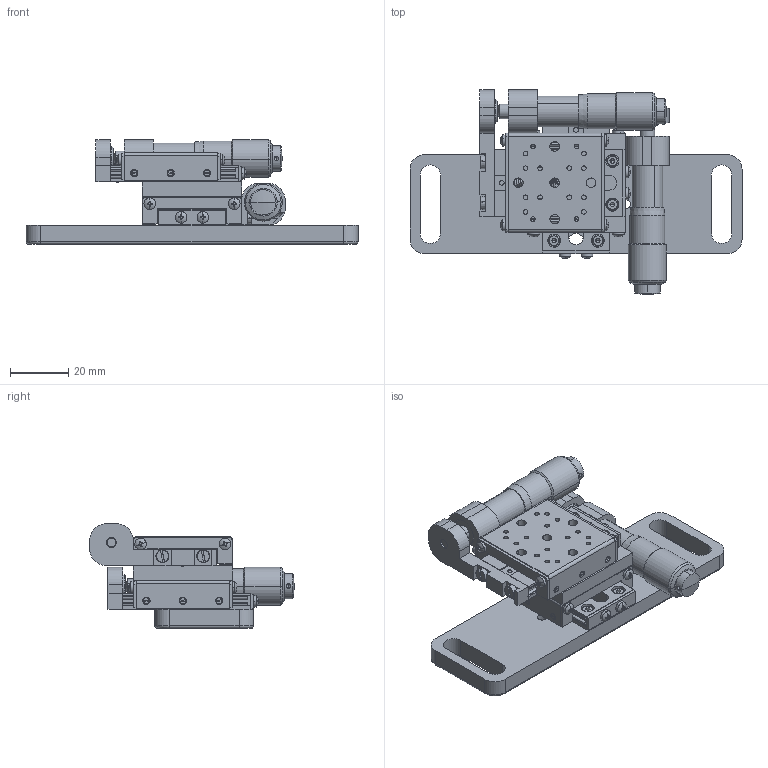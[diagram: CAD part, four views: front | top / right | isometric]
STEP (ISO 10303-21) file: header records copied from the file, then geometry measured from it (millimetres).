
FILE_DESCRIPTION (( 'STEP AP203' ), '1' );
FILE_NAME ('7SAM206-0媼峎覃淕怢.STEP', '2022-04-08T01:35:52', ( '' ), ( '' ), 'SwSTEP 2.0', 'SolidWorks 2018', '' );
FILE_SCHEMA (( 'CONFIG_CONTROL_DESIGN' ));
Length unit declared in the file: millimetre
Products named in the file (1): 7SAM206-0媼峎覃淕怢
Bounding box: 114 x 70.31 x 36 mm (x, y, z)
Volume: 61323.6 mm3; surface area: 53949.2 mm2
Topology: 110 solids, 110 shells, 1876 faces, 4744 edges, 3054 vertices
Faces by surface type: plane 802, cylinder 694, cone 212, sphere 84, torus 72, bspline 12
Entity records: 70431 total; most frequent: CARTESIAN_POINT 24585, DIRECTION 10098, ORIENTED_EDGE 9128, EDGE_CURVE 4564, AXIS2_PLACEMENT_3D 3987, VERTEX_POINT 2982, EDGE_LOOP 2242, LINE 2124
